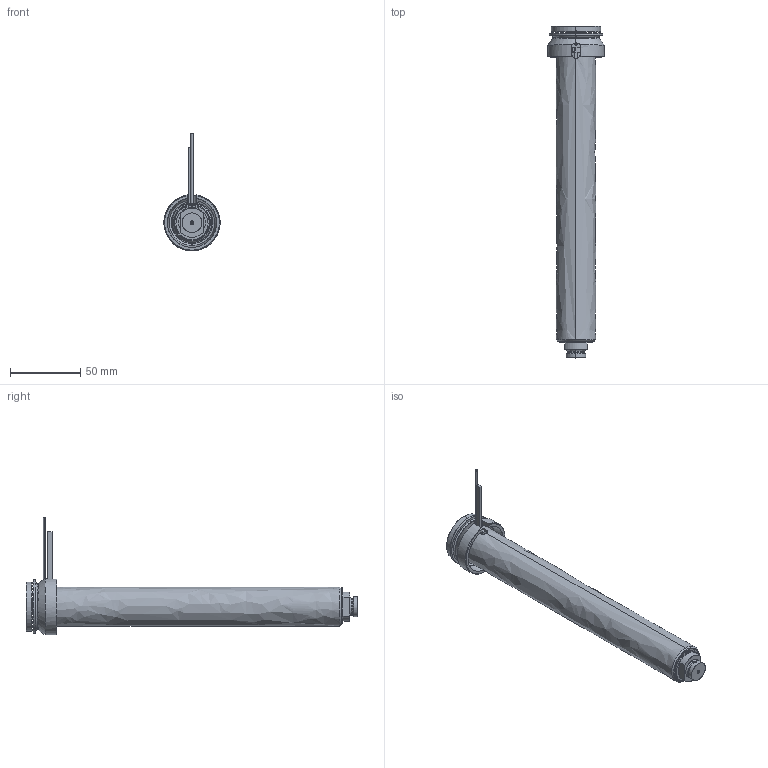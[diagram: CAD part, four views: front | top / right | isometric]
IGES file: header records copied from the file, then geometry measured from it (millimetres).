
Start section: SolidWorks IGES file using analytic representation for surfaces
Global section: file name: C:\Documents and Settings\ws-20\Desktop\TEM\UGEP4105-S-A-1 [Øf-1.17 P-0 ØC-10].IGS; native system: SolidWorks 2012; preprocessor: SolidWorks 2012; author: ws-20; date: 120426.090242; units: millimetre
Bounding box: 40 x 236 x 83.65 mm (x, y, z)
Surface area: 69513.8 mm2 (no closed solid volume)
Topology: 0 solids, 0 shells, 114 faces, 1982 edges, 1982 vertices
Faces by surface type: revolution 68, bspline 46
